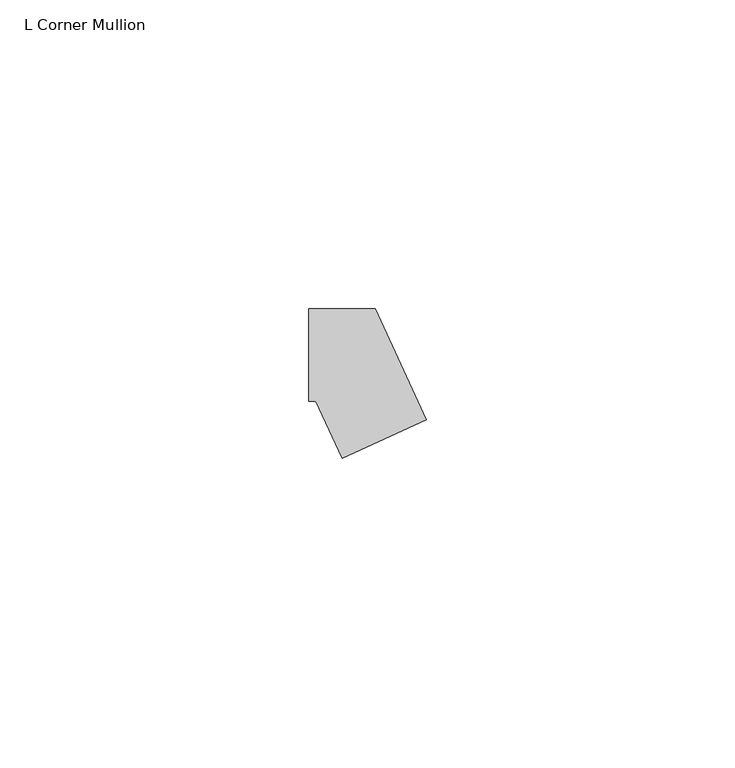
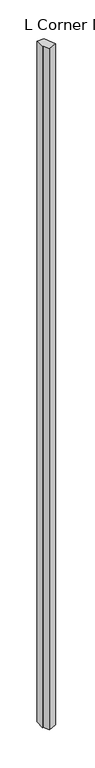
"""IFC4 building model written with IfcOpenShell, lengths in millimetres: member geometry, L Corner Mullion : ARQ_HERR_15X6mm."""

from ifc_helpers import new_model, si_unit, frame, origin, place, context, project, spatial, polyline, outline, extrude, source, transform, mapped, element, save


def l_corner_mullion_3bf1f540(model_context):
    return source(origin(), model_context, "Body", "SweptSolid", [
        extrude(outline(polyline([(-0.5775282, -16.7605627), (-4.8156946, -7.5), (-6.0, -7.5), (-6.0, 7.5), (4.8156946, 7.5), (13.0619332, -10.5183601), (-0.5775282, -16.7605627)])), frame((0.0, 0.0, -1121.1530787), z_axis=(0.0, 0.0, 1.0), x_axis=(1.0, 0.0, 0.0)), (0.0, 0.0, 1.0), 1121.1530787),
    ])


if __name__ == "__main__":
    model = new_model("IFC4")
    model_context = context("Model", 3, world=origin())
    ifc_project = project(units=[si_unit("LENGTHUNIT", "METRE", prefix="MILLI")], contexts=[model_context])
    site = spatial("IfcSite", under=ifc_project)
    building = spatial("IfcBuilding", under=site)
    placement = place(None, origin())
    l_corner_mullion_shape = l_corner_mullion_3bf1f540(model_context)
    element("IfcMember", 1, ObjectType="L Corner Mullion : ARQ_HERR_15X6mm", at=placement, inside=building, context=model_context, shape_type="MappedRepresentation", body=[
        mapped(l_corner_mullion_shape, transform((0.0, 0.0, 0.0), x_axis=(1.0, 0.0, 0.0), y_axis=(0.0, 1.0, 0.0), z_axis=(0.0, 0.0, 1.0))),
    ])
    save(model, "model.ifc")
